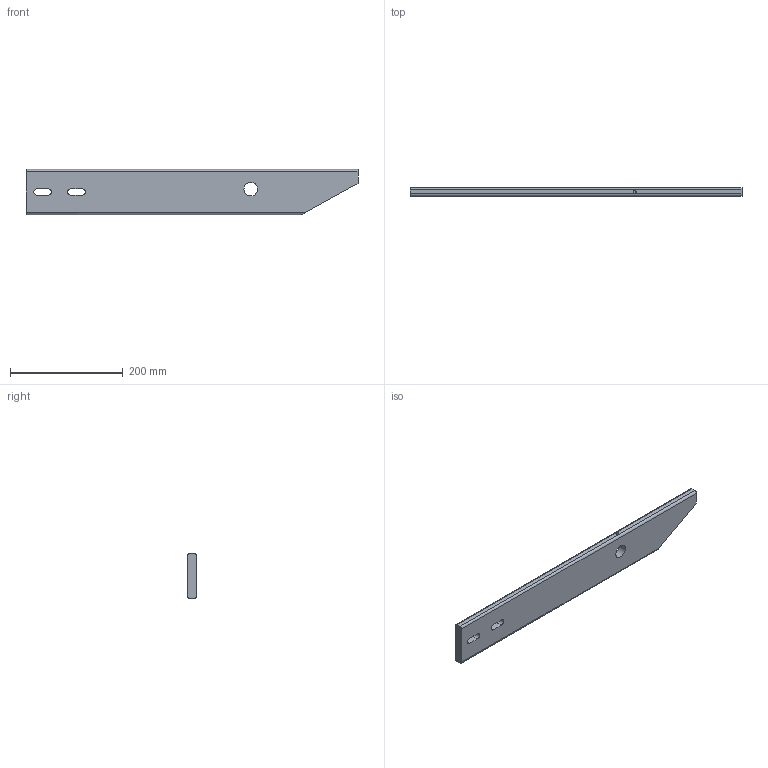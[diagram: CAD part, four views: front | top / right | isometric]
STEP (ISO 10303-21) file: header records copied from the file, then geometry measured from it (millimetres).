
FILE_DESCRIPTION(/* description */ (''),/* implementation_level */ '2;1');
FILE_NAME(/* name */ 'Pos118-BALUSTER PROFIEL 80X15 R4-Aluminium-14st',/* time_stamp */ '2024-08-06T11:49:45+02:00',/* author */ (''),/* organization */ (''),/* preprocessor_version */ 'ST-DEVELOPER v16.5',/* originating_system */ 'HiCAD 2024 2901.2 Build 361',/* authorisation */ '');
FILE_SCHEMA (('AUTOMOTIVE_DESIGN { 1 0 10303 214 1 1 1 1 }'));
Length unit declared in the file: millimetre
Products named in the file (1): Pos118-BALUSTER PROFIEL 80X15 R4-Aluminium-14st
Bounding box: 588 x 15 x 80 mm (x, y, z)
Volume: 639255.5 mm3; surface area: 106603 mm2
Topology: 1 solids, 1 shells, 25 faces, 73 edges, 50 vertices
Faces by surface type: cylinder 12, plane 11, cone 2
Full cylindrical faces by diameter (mm): 5 x3, 24 x1
Entity records: 1378 total; most frequent: CARTESIAN_POINT 137, DIRECTION 131, PRESENTATION_STYLE_ASSIGNMENT 119, COLOUR_RGB 119, DRAUGHTING_PRE_DEFINED_CURVE_FONT 118, CURVE_STYLE 118, OVER_RIDING_STYLED_ITEM 118, ORIENTED_EDGE 118
